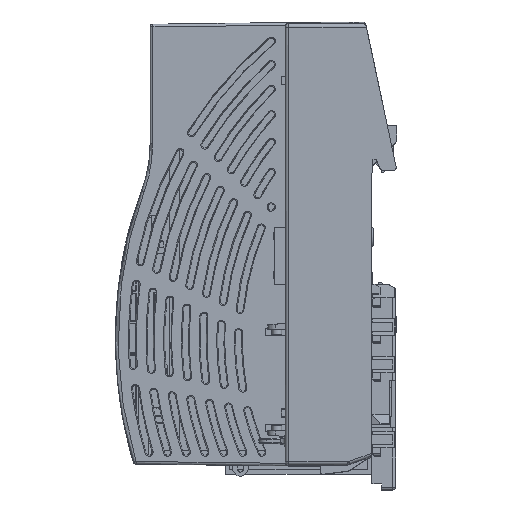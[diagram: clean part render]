
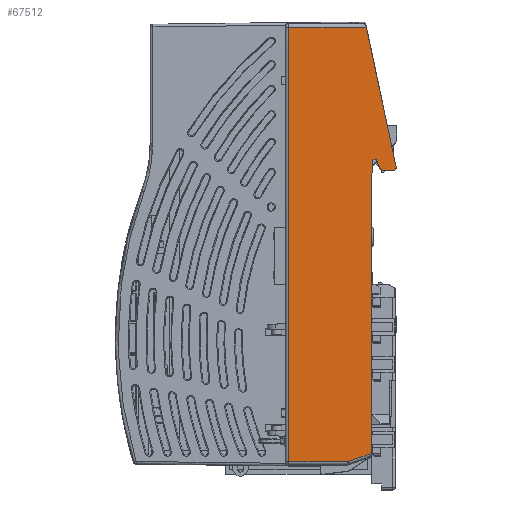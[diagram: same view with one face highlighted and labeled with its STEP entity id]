
A CAD part, left-side view. The second image highlights one B-rep face of the part: STEP entity #67512.
In plain terms, the highlighted planar face has unit normal (-1, 0.012, 0) as drawn and (0, 0.012, -1) by its records, which use the part's own axes.
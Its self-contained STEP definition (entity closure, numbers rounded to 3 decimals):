
#6364=DIRECTION('',(-0.978,0.208,0.003));
#6365=VECTOR('',#6364,40.299);
#6366=CARTESIAN_POINT('',(2.114,-6.728,
-50.583));
#6367=LINE('',#6366,#6365);
#7457=DIRECTION('',(0.,-1.,-0.012));
#7458=VECTOR('',#7457,16.949);
#7459=CARTESIAN_POINT('',(85.5,23.612,-50.212));
#7460=LINE('',#7459,#7458);
#7474=DIRECTION('',(0.336,0.942,0.012));
#7475=VECTOR('',#7474,6.759);
#7476=CARTESIAN_POINT('',(83.225,0.3,
-50.497));
#7477=LINE('',#7476,#7475);
#7481=CARTESIAN_POINT('',(2.114,-6.728,
-50.583));
#7482=CARTESIAN_POINT('',(2.21,-6.749,
-50.583));
#7483=CARTESIAN_POINT('',(2.4,-6.76,
-50.583));
#7484=CARTESIAN_POINT('',(2.683,-6.697,
-50.582));
#7485=CARTESIAN_POINT('',(2.935,-6.557,
-50.581));
#7486=CARTESIAN_POINT('',(3.137,-6.353,
-50.578));
#7487=CARTESIAN_POINT('',(3.274,-6.097,
-50.575));
#7488=CARTESIAN_POINT('',(3.314,-5.911,
-50.573));
#7489=CARTESIAN_POINT('',(3.32,-5.813,
-50.572));
#7494=CARTESIAN_POINT('',(3.32,-3.546,
-50.544));
#7495=CARTESIAN_POINT('',(3.326,-3.421,
-50.542));
#7496=CARTESIAN_POINT('',(3.308,-3.177,
-50.539));
#7497=CARTESIAN_POINT('',(3.192,-2.823,
-50.535));
#7498=CARTESIAN_POINT('',(2.995,-2.51,
-50.531));
#7499=CARTESIAN_POINT('',(2.725,-2.253,
-50.528));
#7500=CARTESIAN_POINT('',(2.512,-2.132,
-50.527));
#7501=CARTESIAN_POINT('',(2.396,-2.083,
-50.526));
#7506=DIRECTION('',(-0.924,0.383,0.005));
#7507=VECTOR('',#7506,2.46);
#7508=CARTESIAN_POINT('',(2.396,-2.083,
-50.526));
#7509=LINE('',#7508,#7507);
#7513=CARTESIAN_POINT('',(0.123,-1.142,
-50.515));
#7514=CARTESIAN_POINT('',(0.098,-1.131,
-50.514));
#7515=CARTESIAN_POINT('',(0.055,-1.102,
-50.514));
#7516=CARTESIAN_POINT('',(0.01,-1.035,
-50.513));
#7517=CARTESIAN_POINT('',(0.,-0.985,
-50.513));
#7518=CARTESIAN_POINT('',(0.,-0.957,
-50.512));
#7523=DIRECTION('',(0.,1.,0.012));
#7524=VECTOR('',#7523,0.757);
#7525=CARTESIAN_POINT('',(0.,-0.957,
-50.512));
#7526=LINE('',#7525,#7524);
#7530=CARTESIAN_POINT('',(0.,-0.2,
-50.503));
#7531=CARTESIAN_POINT('',(0.,-0.172,
-50.503));
#7532=CARTESIAN_POINT('',(0.011,-0.121,
-50.502));
#7533=CARTESIAN_POINT('',(0.055,-0.055,
-50.501));
#7534=CARTESIAN_POINT('',(0.121,-0.011,
-50.501));
#7535=CARTESIAN_POINT('',(0.172,0.,
-50.501));
#7536=CARTESIAN_POINT('',(0.2,0.,
-50.501));
#7541=DIRECTION('',(1.,0.,0.));
#7542=VECTOR('',#7541,3.517);
#7543=CARTESIAN_POINT('',(0.2,0.,
-50.501));
#7544=LINE('',#7543,#7542);
#7548=DIRECTION('',(0.966,0.259,0.003));
#7549=VECTOR('',#7548,1.027);
#7550=CARTESIAN_POINT('',(3.717,0.,
-50.501));
#7551=LINE('',#7550,#7549);
#7555=DIRECTION('',(0.991,0.131,0.002));
#7556=VECTOR('',#7555,0.261);
#7557=CARTESIAN_POINT('',(4.709,0.266,
-50.497));
#7558=LINE('',#7557,#7556);
#7562=DIRECTION('',(1.,0.,0.));
#7563=VECTOR('',#7562,78.257);
#7564=CARTESIAN_POINT('',(4.968,0.3,
-50.497));
#7565=LINE('',#7564,#7563);
#7626=DIRECTION('',(1.,0.,0.));
#7627=VECTOR('',#7626,122.806);
#7628=CARTESIAN_POINT('',(-37.306,23.612,
-50.212));
#7629=LINE('',#7628,#7627);
#48803=DIRECTION('',(0.,1.,0.012));
#48804=VECTOR('',#48803,21.963);
#48805=CARTESIAN_POINT('',(-37.304,1.65,
-50.48));
#48806=LINE('',#48805,#48804);
#48838=DIRECTION('',(0.,-1.,-0.012));
#48839=VECTOR('',#48838,2.267);
#48840=CARTESIAN_POINT('',(3.32,-3.546,
-50.544));
#48841=LINE('',#48840,#48839);
#61575=CARTESIAN_POINT('',(2.114,-6.728,
-50.583));
#61576=VERTEX_POINT('',#61575);
#61577=CARTESIAN_POINT('',(-37.304,1.65,
-50.48));
#61578=VERTEX_POINT('',#61577);
#62145=CARTESIAN_POINT('',(83.225,0.3,
-50.497));
#62146=CARTESIAN_POINT('',(85.498,6.665,
-50.419));
#62147=VERTEX_POINT('',#62145);
#62148=VERTEX_POINT('',#62146);
#62149=CARTESIAN_POINT('',(85.5,23.612,
-50.212));
#62150=VERTEX_POINT('',#62149);
#62151=CARTESIAN_POINT('',(-37.306,23.612,
-50.212));
#62152=VERTEX_POINT('',#62151);
#62153=VERTEX_POINT('',#7489);
#62154=CARTESIAN_POINT('',(3.32,-3.546,
-50.544));
#62155=VERTEX_POINT('',#62154);
#62156=VERTEX_POINT('',#7501);
#62157=CARTESIAN_POINT('',(0.123,-1.142,
-50.515));
#62158=VERTEX_POINT('',#62157);
#62159=VERTEX_POINT('',#7518);
#62160=CARTESIAN_POINT('',(0.,-0.2,
-50.503));
#62161=VERTEX_POINT('',#62160);
#62162=VERTEX_POINT('',#7536);
#62163=CARTESIAN_POINT('',(3.717,0.,
-50.501));
#62164=VERTEX_POINT('',#62163);
#62165=CARTESIAN_POINT('',(4.709,0.266,
-50.497));
#62166=VERTEX_POINT('',#62165);
#62167=CARTESIAN_POINT('',(4.968,0.3,
-50.497));
#62168=VERTEX_POINT('',#62167);
#67476=CARTESIAN_POINT('',(86.772,24.6,
-50.2));
#67477=DIRECTION('',(0.,-0.012,1.));
#67478=DIRECTION('',(-1.,0.,0.));
#67479=AXIS2_PLACEMENT_3D('',#67476,#67477,#67478);
#67480=PLANE('',#67479);
#67482=ORIENTED_EDGE('',*,*,#67481,.T.);
#67483=ORIENTED_EDGE('',*,*,#67458,.F.);
#67485=ORIENTED_EDGE('',*,*,#67484,.F.);
#67487=ORIENTED_EDGE('',*,*,#67486,.F.);
#67488=ORIENTED_EDGE('',*,*,#66612,.F.);
#67490=ORIENTED_EDGE('',*,*,#67489,.T.);
#67492=ORIENTED_EDGE('',*,*,#67491,.F.);
#67494=ORIENTED_EDGE('',*,*,#67493,.T.);
#67496=ORIENTED_EDGE('',*,*,#67495,.T.);
#67498=ORIENTED_EDGE('',*,*,#67497,.T.);
#67500=ORIENTED_EDGE('',*,*,#67499,.T.);
#67502=ORIENTED_EDGE('',*,*,#67501,.T.);
#67504=ORIENTED_EDGE('',*,*,#67503,.T.);
#67506=ORIENTED_EDGE('',*,*,#67505,.T.);
#67508=ORIENTED_EDGE('',*,*,#67507,.T.);
#67509=ORIENTED_EDGE('',*,*,#66975,.T.);
#67510=EDGE_LOOP('',(#67482,#67483,#67485,#67487,#67488,#67490,#67492,#67494,
#67496,#67498,#67500,#67502,#67504,#67506,#67508,#67509));
#67511=FACE_OUTER_BOUND('',#67510,.F.);
#7490=B_SPLINE_CURVE_WITH_KNOTS('',3,(#7481,#7482,#7483,#7484,#7485,#7486,#7487,
#7488,#7489),.UNSPECIFIED.,.F.,.F.,(4,1,1,1,1,1,4),(0.,0.167,
0.333,0.5,0.667,0.833,1.),
.UNSPECIFIED.);
#7502=B_SPLINE_CURVE_WITH_KNOTS('',3,(#7494,#7495,#7496,#7497,#7498,#7499,#7500,
#7501),.UNSPECIFIED.,.F.,.F.,(4,1,1,1,1,4),(0.,0.2,0.4,0.6,0.8,1.),
.UNSPECIFIED.);
#7519=B_SPLINE_CURVE_WITH_KNOTS('',3,(#7513,#7514,#7515,#7516,#7517,#7518),
.UNSPECIFIED.,.F.,.F.,(4,1,1,4),(0.,0.333,0.667,1.),
.UNSPECIFIED.);
#7537=B_SPLINE_CURVE_WITH_KNOTS('',3,(#7530,#7531,#7532,#7533,#7534,#7535,
#7536),.UNSPECIFIED.,.F.,.F.,(4,1,1,1,4),(0.,0.25,0.5,0.75,1.),
.UNSPECIFIED.);
#66612=EDGE_CURVE('',#61576,#61578,#6367,.T.);
#66975=EDGE_CURVE('',#62168,#62147,#7565,.T.);
#67458=EDGE_CURVE('',#62150,#62148,#7460,.T.);
#67481=EDGE_CURVE('',#62147,#62148,#7477,.T.);
#67484=EDGE_CURVE('',#62152,#62150,#7629,.T.);
#67486=EDGE_CURVE('',#61578,#62152,#48806,.T.);
#67489=EDGE_CURVE('',#61576,#62153,#7490,.T.);
#67491=EDGE_CURVE('',#62155,#62153,#48841,.T.);
#67493=EDGE_CURVE('',#62155,#62156,#7502,.T.);
#67495=EDGE_CURVE('',#62156,#62158,#7509,.T.);
#67497=EDGE_CURVE('',#62158,#62159,#7519,.T.);
#67499=EDGE_CURVE('',#62159,#62161,#7526,.T.);
#67501=EDGE_CURVE('',#62161,#62162,#7537,.T.);
#67503=EDGE_CURVE('',#62162,#62164,#7544,.T.);
#67505=EDGE_CURVE('',#62164,#62166,#7551,.T.);
#67507=EDGE_CURVE('',#62166,#62168,#7558,.T.);
#67512=ADVANCED_FACE('',(#67511),#67480,.F.);
